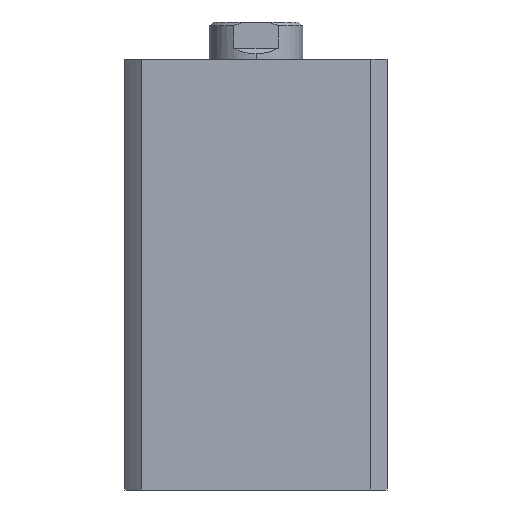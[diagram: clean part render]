
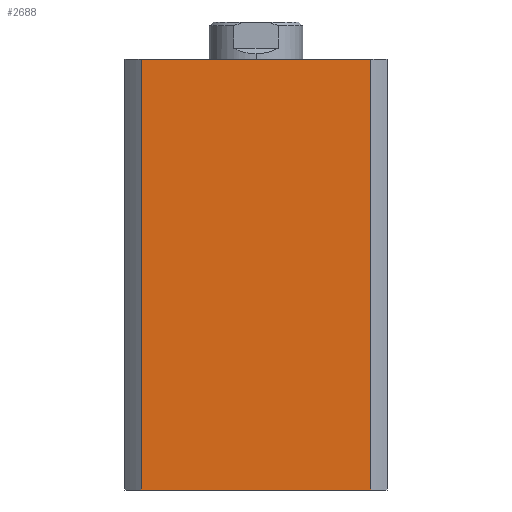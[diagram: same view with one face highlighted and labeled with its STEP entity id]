
A CAD part, left-side view. The second image highlights one B-rep face of the part: STEP entity #2688.
In plain terms, the highlighted planar face has unit normal (-1, 0, 0).
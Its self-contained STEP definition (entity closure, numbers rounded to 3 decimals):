
#233 = CARTESIAN_POINT ( 'NONE',  ( -35., 30.615, 115. ) ) ;
#236 = CARTESIAN_POINT ( 'NONE',  ( -35., -30.615, 0. ) ) ;
#248 = CARTESIAN_POINT ( 'NONE',  ( -35., 30.615, 0. ) ) ;
#273 = CARTESIAN_POINT ( 'NONE',  ( -35., -30.615, 115. ) ) ;
#610 = EDGE_CURVE ( 'NONE', #5049, #5089, #1903, .T. ) ;
#611 = EDGE_CURVE ( 'NONE', #5089, #5052, #1898, .T. ) ;
#613 = EDGE_CURVE ( 'NONE', #5049, #5064, #1894, .T. ) ;
#676 = EDGE_CURVE ( 'NONE', #5064, #5052, #1812, .T. ) ;
#743 = FACE_OUTER_BOUND ( 'NONE', #4461, .T. ) ;
#1399 = AXIS2_PLACEMENT_3D ( 'NONE', #4067, #4072, #4073 ) ;
#1536 = CARTESIAN_POINT ( 'NONE',  ( -35., 0., 0. ) ) ;
#1563 = DIRECTION ( 'NONE',  ( 0., -1., 0. ) ) ;
#1810 = VECTOR ( 'NONE', #1563, 1000. ) ;
#1812 = LINE ( 'NONE', #1536, #1810 ) ;
#1892 = VECTOR ( 'NONE', #4592, 1000. ) ;
#1894 = LINE ( 'NONE', #4584, #1892 ) ;
#1895 = VECTOR ( 'NONE', #4587, 1000. ) ;
#1897 = VECTOR ( 'NONE', #4590, 1000. ) ;
#1898 = LINE ( 'NONE', #4589, #1895 ) ;
#1903 = LINE ( 'NONE', #4560, #1897 ) ;
#1980 = ORIENTED_EDGE ( 'NONE', *, *, #676, .T. ) ;
#2688 = ADVANCED_FACE ( 'NONE', ( #743 ), #4069, .F. ) ;
#2804 = ORIENTED_EDGE ( 'NONE', *, *, #610, .F. ) ;
#2806 = ORIENTED_EDGE ( 'NONE', *, *, #613, .T. ) ;
#2810 = ORIENTED_EDGE ( 'NONE', *, *, #611, .F. ) ;
#4067 = CARTESIAN_POINT ( 'NONE',  ( -35., 0., 115. ) ) ;
#4069 = PLANE ( 'NONE',  #1399 ) ;
#4072 = DIRECTION ( 'NONE',  ( 1., 0., 0. ) ) ;
#4073 = DIRECTION ( 'NONE',  ( 0., 1., 0. ) ) ;
#4461 = EDGE_LOOP ( 'NONE', ( #1980, #2810, #2804, #2806 ) ) ;
#4560 = CARTESIAN_POINT ( 'NONE',  ( -35., 0., 115. ) ) ;
#4584 = CARTESIAN_POINT ( 'NONE',  ( -35., 30.615, 115. ) ) ;
#4587 = DIRECTION ( 'NONE',  ( 0., 0., -1. ) ) ;
#4589 = CARTESIAN_POINT ( 'NONE',  ( -35., -30.615, 115. ) ) ;
#4590 = DIRECTION ( 'NONE',  ( 0., -1., 0. ) ) ;
#4592 = DIRECTION ( 'NONE',  ( 0., 0., -1. ) ) ;
#5049 = VERTEX_POINT ( 'NONE', #233 ) ;
#5052 = VERTEX_POINT ( 'NONE', #236 ) ;
#5064 = VERTEX_POINT ( 'NONE', #248 ) ;
#5089 = VERTEX_POINT ( 'NONE', #273 ) ;
